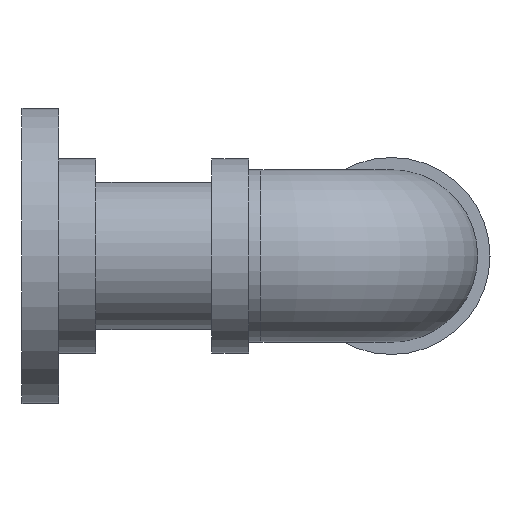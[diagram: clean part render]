
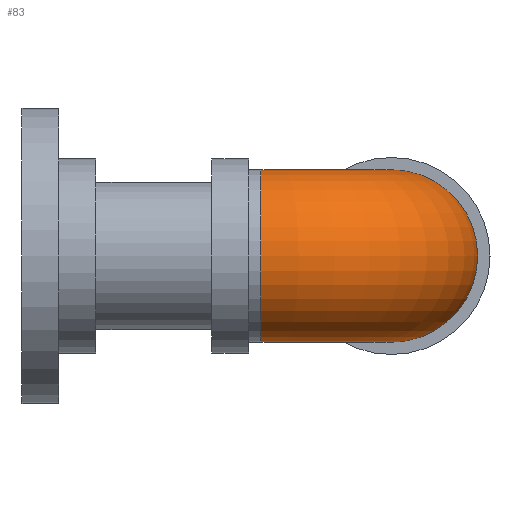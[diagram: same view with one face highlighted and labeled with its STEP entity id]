
A CAD part, left-side view. The second image highlights one B-rep face of the part: STEP entity #83.
In plain terms, the highlighted toroidal (fillet/blend) face has major radius 10.6 mm and minor radius 7 mm.
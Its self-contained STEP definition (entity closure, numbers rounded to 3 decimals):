
#83 = ADVANCED_FACE( '', ( #193, #194 ), #195, .T. );
#193 = FACE_OUTER_BOUND( '', #338, .T. );
#194 = FACE_OUTER_BOUND( '', #339, .T. );
#195 = TOROIDAL_SURFACE( '', #340, 10.6, 7. );
#338 = EDGE_LOOP( '', ( #501 ) );
#339 = EDGE_LOOP( '', ( #502 ) );
#340 = AXIS2_PLACEMENT_3D( '', #503, #504, #505 );
#501 = ORIENTED_EDGE( '', *, *, #670, .T. );
#502 = ORIENTED_EDGE( '', *, *, #652, .F. );
#503 = CARTESIAN_POINT( '', ( 10.6, -19.4, 0. ) );
#504 = DIRECTION( '', ( 0., 0., 1. ) );
#505 = DIRECTION( '', ( 1., 0., 0. ) );
#652 = EDGE_CURVE( '', #730, #730, #731, .T. );
#670 = EDGE_CURVE( '', #759, #759, #760, .T. );
#730 = VERTEX_POINT( '', #833 );
#731 = CIRCLE( '', #834, 7. );
#759 = VERTEX_POINT( '', #862 );
#760 = CIRCLE( '', #863, 7. );
#833 = CARTESIAN_POINT( '', ( 10.6, -37., 0. ) );
#834 = AXIS2_PLACEMENT_3D( '', #939, #940, #941 );
#862 = CARTESIAN_POINT( '', ( -7., -19.4, 0. ) );
#863 = AXIS2_PLACEMENT_3D( '', #972, #973, #974 );
#939 = CARTESIAN_POINT( '', ( 10.6, -30., 0. ) );
#940 = DIRECTION( '', ( 1., 0., 0. ) );
#941 = DIRECTION( '', ( 0., -1., 0. ) );
#972 = CARTESIAN_POINT( '', ( 0., -19.4, 0. ) );
#973 = DIRECTION( '', ( 0., -1., 0. ) );
#974 = DIRECTION( '', ( -1., 0., 0. ) );
